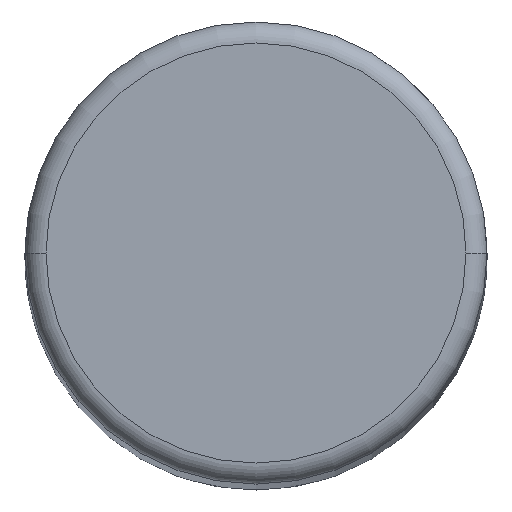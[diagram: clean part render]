
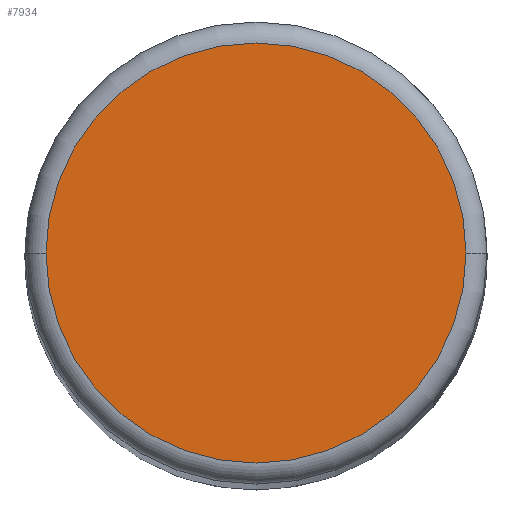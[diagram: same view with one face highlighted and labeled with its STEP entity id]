
A CAD part, top view. The second image highlights one B-rep face of the part: STEP entity #7934.
In plain terms, the highlighted planar face has unit normal (0, 0, 1).
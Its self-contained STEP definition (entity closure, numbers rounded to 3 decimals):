
#2124=CARTESIAN_POINT('',(0.,0.,73.75));
#2125=DIRECTION('',(0.,0.,1.));
#2126=DIRECTION('',(-1.,0.,0.));
#2127=AXIS2_PLACEMENT_3D('',#2124,#2125,#2126);
#2129=CARTESIAN_POINT('',(0.,0.,73.75));
#2130=DIRECTION('',(0.,0.,1.));
#2131=DIRECTION('',(1.,0.,0.));
#2132=AXIS2_PLACEMENT_3D('',#2129,#2130,#2131);
#5449=CARTESIAN_POINT('',(-10.,0.,73.75));
#5450=CARTESIAN_POINT('',(10.,0.,73.75));
#5451=VERTEX_POINT('',#5449);
#5452=VERTEX_POINT('',#5450);
#7924=CARTESIAN_POINT('',(0.,0.,73.75));
#7925=DIRECTION('',(0.,0.,1.));
#7926=DIRECTION('',(1.,0.,0.));
#7927=AXIS2_PLACEMENT_3D('',#7924,#7925,#7926);
#7928=PLANE('',#7927);
#7930=ORIENTED_EDGE('',*,*,#7929,.F.);
#7931=ORIENTED_EDGE('',*,*,#7914,.F.);
#7932=EDGE_LOOP('',(#7930,#7931));
#7933=FACE_OUTER_BOUND('',#7932,.F.);
#7934=ADVANCED_FACE('',(#7933),#7928,.T.);
#2128=CIRCLE('',#2127,10.);
#2133=CIRCLE('',#2132,10.);
#7914=EDGE_CURVE('',#5452,#5451,#2133,.T.);
#7929=EDGE_CURVE('',#5451,#5452,#2128,.T.);
